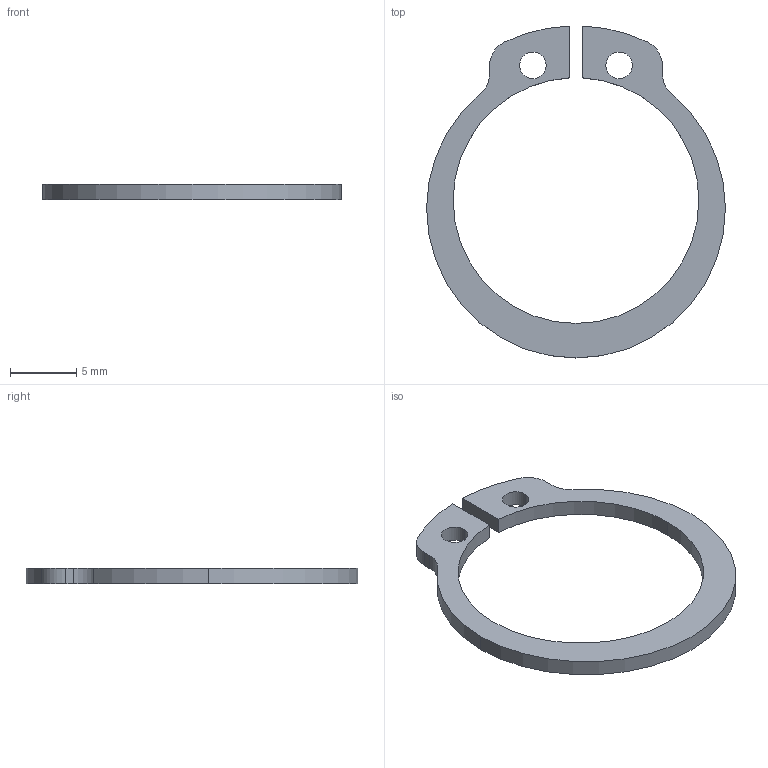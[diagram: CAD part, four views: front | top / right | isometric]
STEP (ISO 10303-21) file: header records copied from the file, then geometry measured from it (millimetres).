
FILE_DESCRIPTION(('CATIA V5 STEP Exchange'),'2;1');
FILE_NAME('C:\Users\Utente\Desktop\IO LAVORO\3D X SITO CF\X SITO\PLASTICA\553S\553S-R20.stp','2021-04-21T09:24:17+00:00',('none'),('none'),'CATIA Version 5 Release 20 GA (IN-10)','CATIA V5 STEP AP203','none');
FILE_SCHEMA(('CONFIG_CONTROL_DESIGN'));
Length unit declared in the file: millimetre
Products named in the file (1): 553S-R20
Bounding box: 22.5 x 24.99 x 1.2 mm (x, y, z)
Volume: 182.2 mm3; surface area: 485.8 mm2
Topology: 1 solids, 1 shells, 22 faces, 60 edges, 40 vertices
Faces by surface type: cylinder 16, plane 6
Entity records: 724 total; most frequent: CARTESIAN_POINT 121, ORIENTED_EDGE 120, DIRECTION 100, EDGE_CURVE 60, AXIS2_PLACEMENT_3D 53, VERTEX_POINT 40, CIRCLE 32, VECTOR 28
